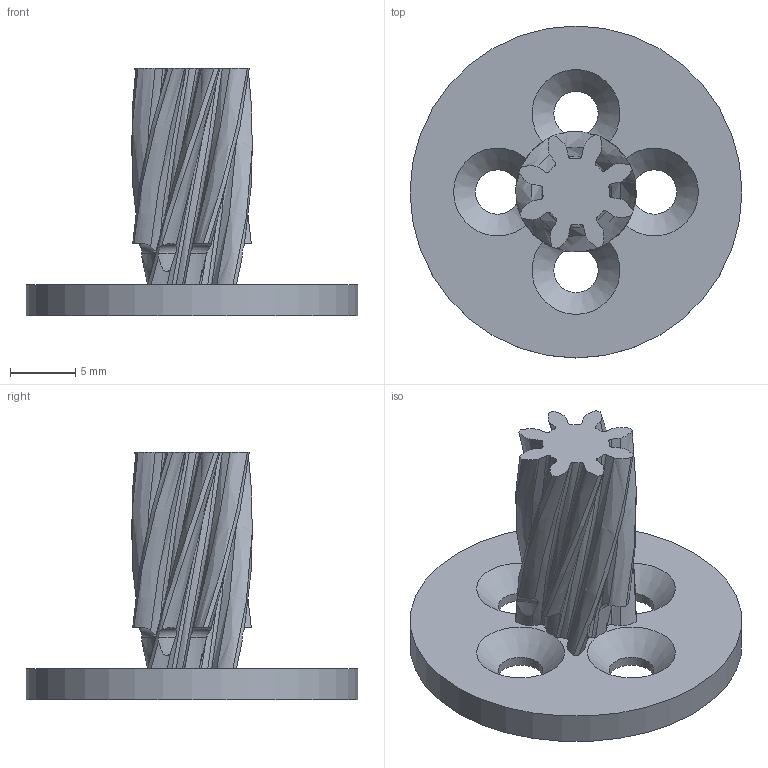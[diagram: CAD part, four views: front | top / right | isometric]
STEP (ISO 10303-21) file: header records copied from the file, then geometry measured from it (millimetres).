
FILE_DESCRIPTION(/* description */ ('STEP AP242 Edition 2','CAx-IF Rec.Pracs.---Representation and Presentation of Product Manufacturing Information (PMI)---4.0---2014-10-13','CAx-IF Rec.Pracs.---3D Tessellated Geometry---0.4---2014-09-14','2;1','CAx-IF Rec.Pracs.---User Defined Attributes---1.5---2016-08-15'),/* implementation_level */ '2;1');
FILE_NAME(/* name */ 'Main - Sun Gear',/* time_stamp */ '2026-07-24T17:05:38Z',/* author */ (''),/* organization */ (''),/* preprocessor_version */ 'ST-DEVELOPER v20',/* originating_system */ 'ONSHAPE BY PTC INC, 1.218',/* authorisation */ ' ');
FILE_SCHEMA (('AP242_MANAGED_MODEL_BASED_3D_ENGINEERING_MIM_LF { 1 0 10303 442 3 1 4 }'));
Length unit declared in the file: metre
Products named in the file (1): Sun Gear
Bounding box: 25.4 x 25.4 x 18.95 mm (x, y, z)
Volume: 1625.6 mm3; surface area: 1998.6 mm2
Topology: 1 solids, 1 shells, 102 faces, 298 edges, 196 vertices
Faces by surface type: bspline 60, cylinder 22, plane 8, torus 8, cone 4
Full cylindrical faces by diameter (mm): 3.4 x4, 3.533 x1, 25.4 x1
Entity records: 7070 total; most frequent: CARTESIAN_POINT 5099, ORIENTED_EDGE 560, EDGE_CURVE 280, DIRECTION 194, VERTEX_POINT 188, B_SPLINE_CURVE_WITH_KNOTS 180, EDGE_LOOP 118, FACE_BOUND 118
